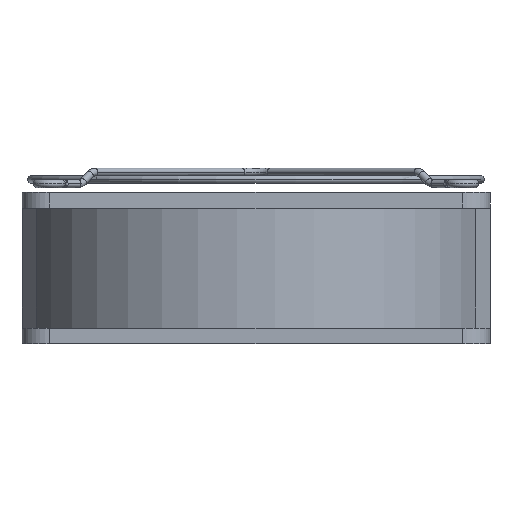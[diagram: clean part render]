
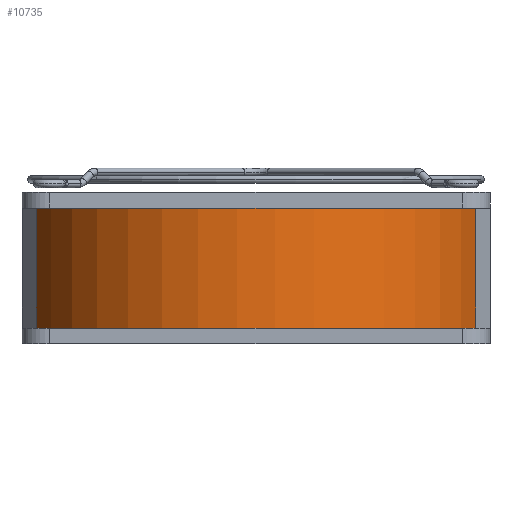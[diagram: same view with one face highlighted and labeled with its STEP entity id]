
A CAD part, front view. The second image highlights one B-rep face of the part: STEP entity #10735.
In plain terms, the highlighted cylindrical face has radius 58.5 mm (diameter 117 mm), a partial arc.
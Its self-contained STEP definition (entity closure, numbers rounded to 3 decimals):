
#245 = ORIENTED_EDGE ( 'NONE', *, *, #10148, .T. ) ;
#246 = ORIENTED_EDGE ( 'NONE', *, *, #10149, .F. ) ;
#247 = ORIENTED_EDGE ( 'NONE', *, *, #10147, .F. ) ;
#248 = ORIENTED_EDGE ( 'NONE', *, *, #10150, .T. ) ;
#2926 = CARTESIAN_POINT ( 'NONE',  ( 55.821, -17.5, 34.5 ) ) ;
#2927 = CARTESIAN_POINT ( 'NONE',  ( 55.821, -17.5, 4. ) ) ;
#3030 = CARTESIAN_POINT ( 'NONE',  ( -55.821, -17.5, 34.5 ) ) ;
#3037 = CARTESIAN_POINT ( 'NONE',  ( -55.821, -17.5, 4. ) ) ;
#3657 = AXIS2_PLACEMENT_3D ( 'NONE', #5884, #5883, #5882 ) ;
#4236 = FACE_OUTER_BOUND ( 'NONE', #9092, .T. ) ;
#4372 = CYLINDRICAL_SURFACE ( 'NONE', #3657, 58.5 ) ;
#4840 = DIRECTION ( 'NONE',  ( -1., 0., 0. ) ) ;
#4841 = DIRECTION ( 'NONE',  ( 0., 0., -1. ) ) ;
#4842 = DIRECTION ( 'NONE',  ( 0., 0., -1. ) ) ;
#4843 = CARTESIAN_POINT ( 'NONE',  ( 55.821, -17.5, 500000. ) ) ;
#4844 = LINE ( 'NONE', #4843, #11492 ) ;
#4845 = DIRECTION ( 'NONE',  ( 0., 0., -1. ) ) ;
#4846 = CARTESIAN_POINT ( 'NONE',  ( -55.821, -17.5, 500000. ) ) ;
#4847 = LINE ( 'NONE', #4846, #11494 ) ;
#4848 = CARTESIAN_POINT ( 'NONE',  ( 0., 0., 34.5 ) ) ;
#4849 = DIRECTION ( 'NONE',  ( -1., 0., 0. ) ) ;
#4850 = DIRECTION ( 'NONE',  ( 0., 0., -1. ) ) ;
#4857 = CARTESIAN_POINT ( 'NONE',  ( 0., 0., 4. ) ) ;
#5882 = DIRECTION ( 'NONE',  ( -1., 0., 0. ) ) ;
#5883 = DIRECTION ( 'NONE',  ( 0., 0., -1. ) ) ;
#5884 = CARTESIAN_POINT ( 'NONE',  ( 0., 0., 38.5 ) ) ;
#8872 = VERTEX_POINT ( 'NONE', #3037 ) ;
#8879 = VERTEX_POINT ( 'NONE', #3030 ) ;
#8982 = VERTEX_POINT ( 'NONE', #2927 ) ;
#8983 = VERTEX_POINT ( 'NONE', #2926 ) ;
#9092 = EDGE_LOOP ( 'NONE', ( #245, #247, #246, #248 ) ) ;
#9864 = CIRCLE ( 'NONE', #11493, 58.5 ) ;
#9865 = CIRCLE ( 'NONE', #11500, 58.5 ) ;
#10147 = EDGE_CURVE ( 'NONE', #8982, #8872, #9865, .T. ) ;
#10148 = EDGE_CURVE ( 'NONE', #8879, #8872, #4847, .T. ) ;
#10149 = EDGE_CURVE ( 'NONE', #8983, #8982, #4844, .T. ) ;
#10150 = EDGE_CURVE ( 'NONE', #8983, #8879, #9864, .T. ) ;
#10735 = ADVANCED_FACE ( 'NONE', ( #4236 ), #4372, .T. ) ;
#11492 = VECTOR ( 'NONE', #4842, 1000. ) ;
#11493 = AXIS2_PLACEMENT_3D ( 'NONE', #4848, #4841, #4840 ) ;
#11494 = VECTOR ( 'NONE', #4845, 1000. ) ;
#11500 = AXIS2_PLACEMENT_3D ( 'NONE', #4857, #4850, #4849 ) ;
